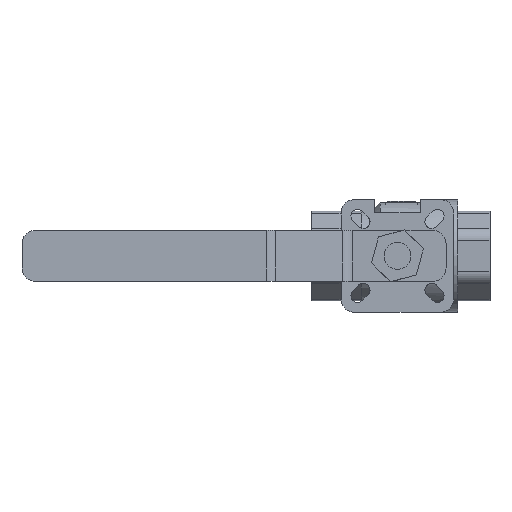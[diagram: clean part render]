
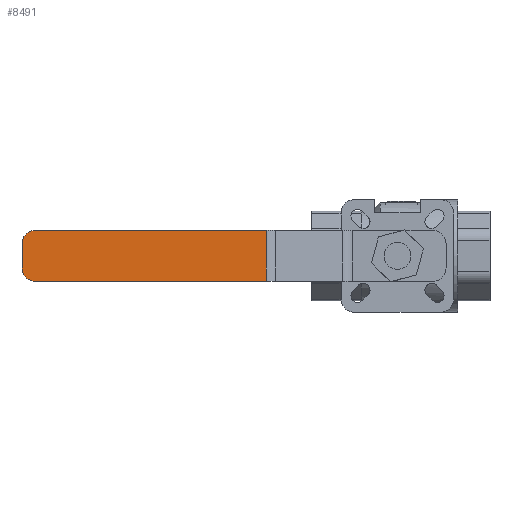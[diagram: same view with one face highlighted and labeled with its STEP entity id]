
A CAD part, top view. The second image highlights one B-rep face of the part: STEP entity #8491.
In plain terms, the highlighted planar face has unit normal (0, 0, 1).
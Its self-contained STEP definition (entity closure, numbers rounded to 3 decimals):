
#8491=ADVANCED_FACE('',(#15149),#15151,.T.);
#15149=FACE_BOUND('',#15150,.T.);
#15150=EDGE_LOOP('',(#20673,#20674,#20675,#20676,#20677,#20678));
#15151=PLANE('',#15152);
#15152=AXIS2_PLACEMENT_3D('',#15153,#15154,#15155);
#15153=CARTESIAN_POINT('',(2223.797,1024.576,-170.067));
#15154=DIRECTION('',(0.,0.,1.));
#15155=DIRECTION('',(1.,0.,0.));
#20673=ORIENTED_EDGE('',*,*,#23463,.F.);
#20674=ORIENTED_EDGE('',*,*,#23468,.F.);
#20675=ORIENTED_EDGE('',*,*,#23469,.T.);
#20676=ORIENTED_EDGE('',*,*,#23456,.F.);
#20677=ORIENTED_EDGE('',*,*,#23470,.F.);
#20678=ORIENTED_EDGE('',*,*,#23465,.T.);
#23456=EDGE_CURVE('',#28021,#28023,#28024,.T.);
#23463=EDGE_CURVE('',#28034,#28036,#28037,.T.);
#23465=EDGE_CURVE('',#28039,#28036,#28040,.T.);
#23468=EDGE_CURVE('',#28044,#28034,#28045,.T.);
#23469=EDGE_CURVE('',#28044,#28023,#28046,.T.);
#23470=EDGE_CURVE('',#28039,#28021,#28047,.T.);
#28021=VERTEX_POINT('',#38768);
#28023=VERTEX_POINT('',#38772);
#28024=LINE('',#38773,#38774);
#28034=VERTEX_POINT('',#38798);
#28036=VERTEX_POINT('',#38802);
#28037=CIRCLE('',#38803,5.);
#28039=VERTEX_POINT('',#38810);
#28040=LINE('',#38811,#38812);
#28044=VERTEX_POINT('',#38821);
#28045=LINE('',#38822,#38823);
#28046=LINE('',#38825,#38826);
#28047=CIRCLE('',#38828,5.);
#38768=CARTESIAN_POINT('',(2238.69,1043.576,-170.067));
#38772=CARTESIAN_POINT('',(2324.834,1043.576,-170.067));
#38773=CARTESIAN_POINT('',(2238.69,1043.576,-170.067));
#38774=VECTOR('',#38775,1.);
#38775=DIRECTION('',(1.,0.,0.));
#38798=CARTESIAN_POINT('',(2238.69,1024.576,-170.067));
#38802=CARTESIAN_POINT('',(2233.69,1029.576,-170.067));
#38803=AXIS2_PLACEMENT_3D('',#38804,#38805,#38806);
#38804=CARTESIAN_POINT('',(2238.69,1029.576,-170.067));
#38805=DIRECTION('',(0.,0.,-1.));
#38806=DIRECTION('',(0.,-1.,0.));
#38810=CARTESIAN_POINT('',(2233.69,1038.576,-170.067));
#38811=CARTESIAN_POINT('',(2233.69,1038.576,-170.067));
#38812=VECTOR('',#38813,1.);
#38813=DIRECTION('',(0.,-1.,0.));
#38821=CARTESIAN_POINT('',(2324.834,1024.576,-170.067));
#38822=CARTESIAN_POINT('',(2324.834,1024.576,-170.067));
#38823=VECTOR('',#38824,1.);
#38824=DIRECTION('',(-1.,0.,0.));
#38825=CARTESIAN_POINT('',(2324.834,1024.576,-170.067));
#38826=VECTOR('',#38827,1.);
#38827=DIRECTION('',(0.,1.,0.));
#38828=AXIS2_PLACEMENT_3D('',#38829,#38830,#38831);
#38829=CARTESIAN_POINT('',(2238.69,1038.576,-170.067));
#38830=DIRECTION('',(0.,0.,-1.));
#38831=DIRECTION('',(-1.,0.,0.));
